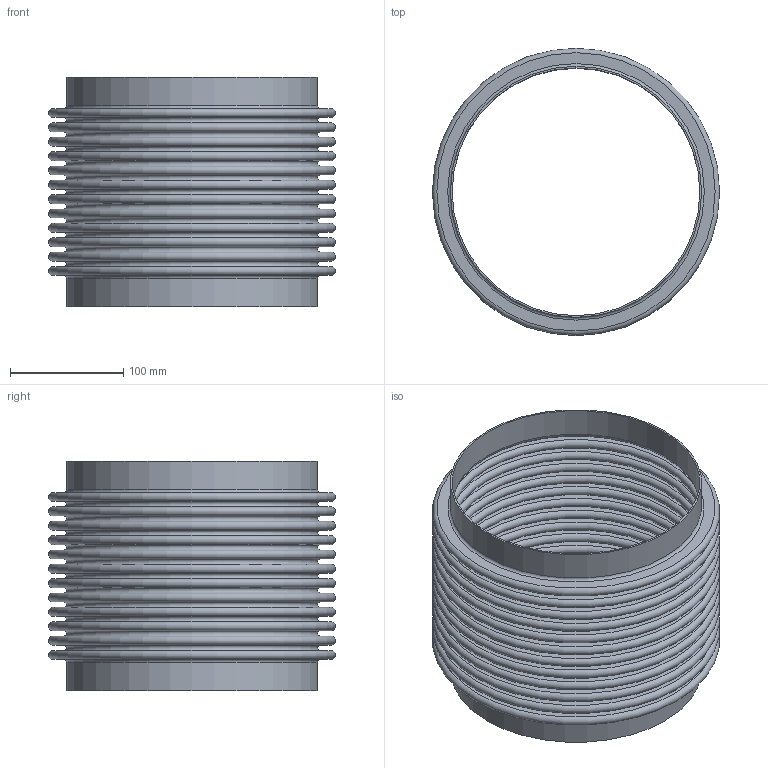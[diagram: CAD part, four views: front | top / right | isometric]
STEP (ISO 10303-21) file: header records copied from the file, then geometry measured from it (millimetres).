
FILE_DESCRIPTION(/* description */ ('STOCK BELLOWS: U.S-8-12-300L, 8.625 I.D., 10.000 O.D., 2 PLY, 22 GA (0.030 THICK), 12 CONS., 0.500 PITCH, 1.000 TANGENT. '),/* implementation_level */ '2;1');
FILE_NAME(/* name */ 'STOCK BELLOW - US-8-12-300L.stp',/* time_stamp */ '2026-07-21T13:27:59-05:00',/* author */ ('KennethB'),/* organization */ (''),/* preprocessor_version */ 'ST-DEVELOPER v20.1',/* originating_system */ 'Autodesk Inventor 2026',/* authorisation */ '');
FILE_SCHEMA (('AUTOMOTIVE_DESIGN { 1 0 10303 214 3 1 1 }'));
Length unit declared in the file: inch
Products named in the file (1): STOCK BELLOW - US-8-12-300L
Bounding box: 254 x 254 x 203.2 mm (x, y, z)
Volume: 585373.8 mm3; surface area: 774544.1 mm2
Topology: 3 solids, 3 shells, 108 faces, 162 edges, 109 vertices
Faces by surface type: plane 54, torus 50, cylinder 4
Full cylindrical faces by diameter (mm): 219.075 x2, 222.123 x2
Entity records: 2550 total; most frequent: DIRECTION 538, CARTESIAN_POINT 380, ORIENTED_EDGE 324, AXIS2_PLACEMENT_3D 267, EDGE_LOOP 162, EDGE_CURVE 162, CIRCLE 158, FACE_OUTER_BOUND 108
